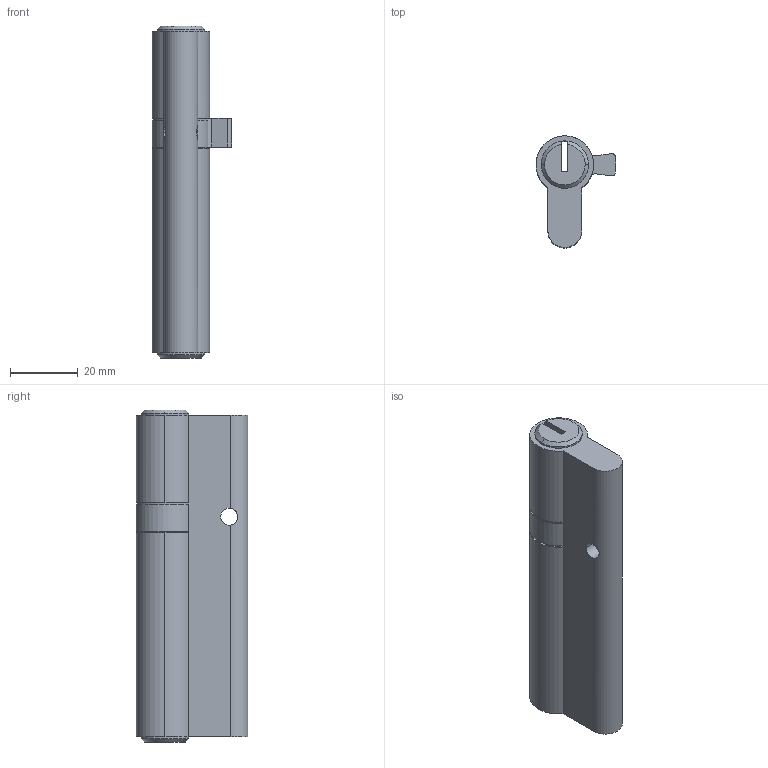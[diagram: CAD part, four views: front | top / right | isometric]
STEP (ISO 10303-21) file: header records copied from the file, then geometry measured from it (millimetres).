
FILE_DESCRIPTION (( 'STEP AP214' ), '1' );
FILE_NAME ('TPL-H-EU-522-L 29Oct2024.STEP', '2024-10-29T22:29:31', ( '' ), ( '' ), 'SwSTEP 2.0', 'SolidWorks 2023', '' );
FILE_SCHEMA (( 'AUTOMOTIVE_DESIGN' ));
Length unit declared in the file: millimetre
Products named in the file (1): TPL-H-EU-522-L 29Oct2024
Bounding box: 23.58 x 33 x 98 mm (x, y, z)
Volume: 35186.9 mm3; surface area: 11264.4 mm2
Topology: 1 solids, 1 shells, 51 faces, 141 edges, 88 vertices
Faces by surface type: cylinder 29, plane 16, cone 6
Entity records: 1740 total; most frequent: CARTESIAN_POINT 357, DIRECTION 307, ORIENTED_EDGE 282, EDGE_CURVE 141, AXIS2_PLACEMENT_3D 122, VERTEX_POINT 88, CIRCLE 70, VECTOR 63
